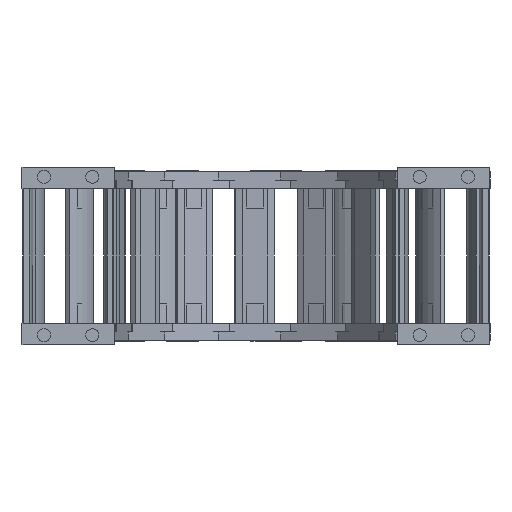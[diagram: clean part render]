
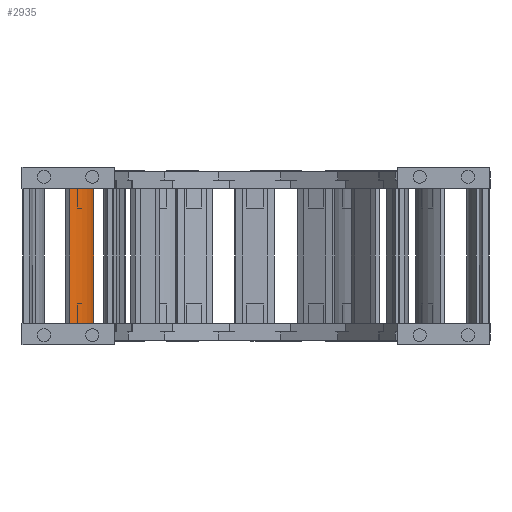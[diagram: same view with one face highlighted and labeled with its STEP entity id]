
A CAD part, left-side view. The second image highlights one B-rep face of the part: STEP entity #2935.
In plain terms, the highlighted cylindrical face has radius 52 mm (diameter 104 mm), a partial arc.
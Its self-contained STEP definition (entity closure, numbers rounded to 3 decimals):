
#2691=CARTESIAN_POINT('',(0.,45.5,37.5));
#2692=DIRECTION('',(0.,0.,-1.));
#2693=DIRECTION('',(0.346,-0.938,0.));
#2694=AXIS2_PLACEMENT_3D('',#2691,#2692,#2693);
#2734=DIRECTION('',(0.,0.,-1.));
#2735=VECTOR('',#2734,125.4);
#2736=CARTESIAN_POINT('',(18.,-3.285,37.5));
#2737=LINE('',#2736,#2735);
#2741=DIRECTION('',(0.,0.,1.));
#2742=VECTOR('',#2741,125.4);
#2743=CARTESIAN_POINT('',(-18.,-3.285,-87.9));
#2744=LINE('',#2743,#2742);
#2769=CARTESIAN_POINT('',(0.,45.5,-87.9));
#2770=DIRECTION('',(0.,0.,1.));
#2771=DIRECTION('',(-0.346,-0.938,0.));
#2772=AXIS2_PLACEMENT_3D('',#2769,#2770,#2771);
#2813=CARTESIAN_POINT('',(18.,-3.285,-87.9));
#2815=VERTEX_POINT('',#2813);
#2816=CARTESIAN_POINT('',(-18.,-3.285,-87.9));
#2817=VERTEX_POINT('',#2816);
#2824=CARTESIAN_POINT('',(18.,-3.285,37.5));
#2825=VERTEX_POINT('',#2824);
#2828=CARTESIAN_POINT('',(-18.,-3.285,37.5));
#2829=VERTEX_POINT('',#2828);
#2921=CARTESIAN_POINT('',(0.,45.5,-12.9));
#2922=DIRECTION('',(0.,0.,1.));
#2923=DIRECTION('',(1.,0.,0.));
#2924=AXIS2_PLACEMENT_3D('',#2921,#2922,#2923);
#2925=CYLINDRICAL_SURFACE('',#2924,52.);
#2927=ORIENTED_EDGE('',*,*,#2926,.T.);
#2929=ORIENTED_EDGE('',*,*,#2928,.F.);
#2931=ORIENTED_EDGE('',*,*,#2930,.T.);
#2932=ORIENTED_EDGE('',*,*,#2896,.F.);
#2933=EDGE_LOOP('',(#2927,#2929,#2931,#2932));
#2934=FACE_OUTER_BOUND('',#2933,.F.);
#2935=ADVANCED_FACE('',(#2934),#2925,.T.);
#2695=CIRCLE('',#2694,52.);
#2773=CIRCLE('',#2772,52.);
#2896=EDGE_CURVE('',#2825,#2829,#2695,.T.);
#2926=EDGE_CURVE('',#2825,#2815,#2737,.T.);
#2928=EDGE_CURVE('',#2817,#2815,#2773,.T.);
#2930=EDGE_CURVE('',#2817,#2829,#2744,.T.);
